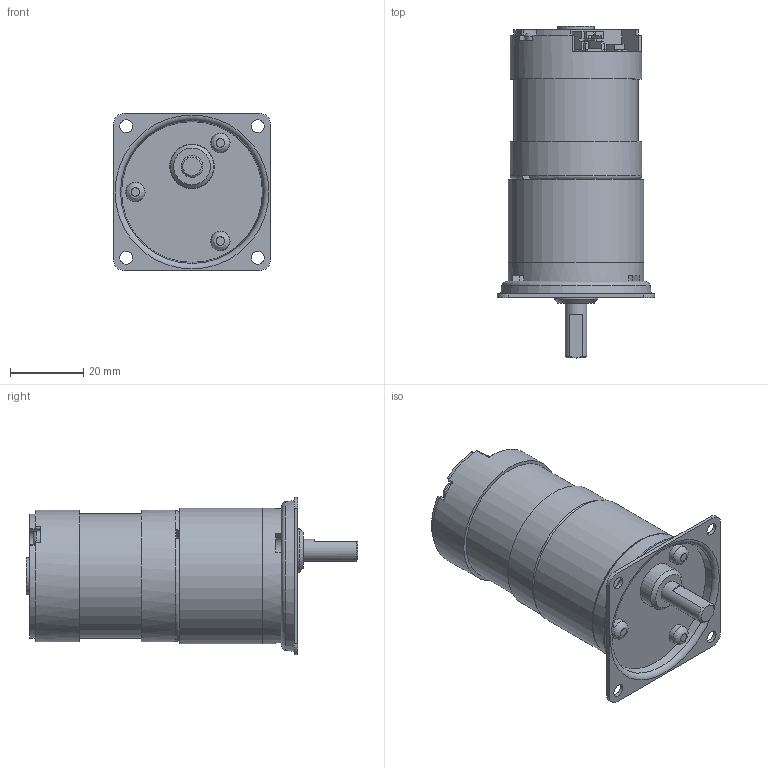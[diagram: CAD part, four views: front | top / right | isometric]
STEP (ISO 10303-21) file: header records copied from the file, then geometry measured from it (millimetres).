
FILE_DESCRIPTION((''),'2;1');
FILE_NAME('\\Servert1600\threepeace\2015homepage\STP\HP-Data_GM_3D_STEP\TP-3641AA,BA,CA,DA,EA(ドライバ内蔵)-PJ-120～300-P00-12,24.stp','2016-11-11T13:11:42',('Administrator'),(''),'Autodesk Inventor 2010','Autodesk Inventor 2010','');
FILE_SCHEMA(('AUTOMOTIVE_DESIGN { 1 0 10303 214 1 1 1 1 }'));
Length unit declared in the file: millimetre
Products named in the file (7): TP-3641AA,BA,CA,DA,EA(ドライバ内蔵)-PJ-120～300-P00-12,24; KJ-5; □43; TP-3641AA,BA,CA-24; TP-3641BA,l; S2B-PH-SM4-TB; SMD-TRIMMERS
Assembly tree (6 placements, depth 3):
  TP-3641AA,BA,CA,DA,EA(ドライバ内蔵)-PJ-120～300-P00-12,24
    KJ-5
    □43
    TP-3641AA,BA,CA-24
      TP-3641BA,l
      S2B-PH-SM4-TB
      SMD-TRIMMERS
Bounding box: 43 x 90.8 x 43 mm (x, y, z)
Volume: 71171.2 mm3; surface area: 18494.1 mm2
Topology: 6 solids, 6 shells, 272 faces, 708 edges, 468 vertices
Faces by surface type: plane 163, cylinder 54, bspline 44, torus 6, cone 5
Full cylindrical faces by diameter (mm): 1.9 x1, 2.5 x2, 5 x1, 5.3 x3, 6 x1, 10 x2, 12 x1, 12.2 x1, 34.1 x1, 36 x2, 36.6 x1, 37 x2
Entity records: 8673 total; most frequent: CARTESIAN_POINT 2188, DIRECTION 1259, ORIENTED_EDGE 1192, EDGE_CURVE 596, AXIS2_PLACEMENT_3D 428, VERTEX_POINT 425, VECTOR 403, LINE 403
